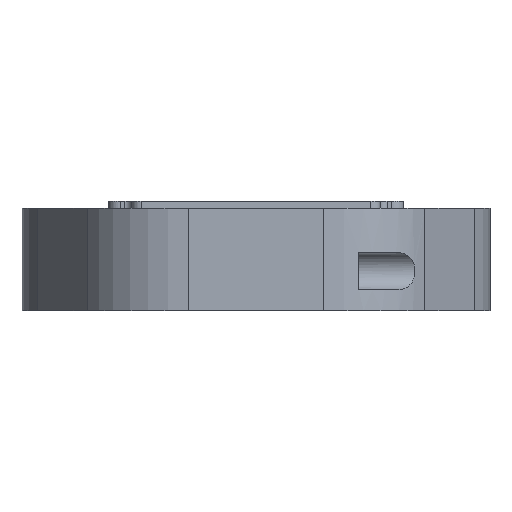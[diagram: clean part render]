
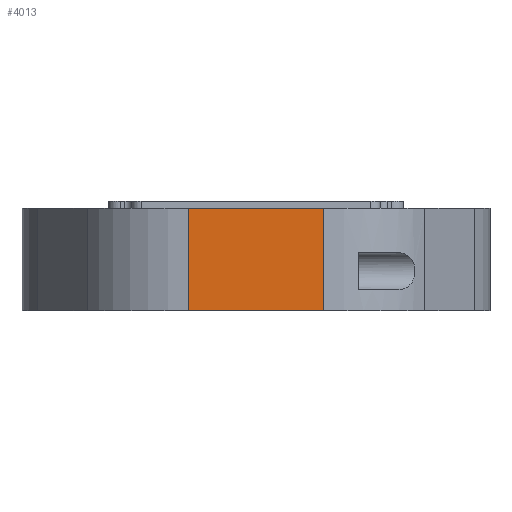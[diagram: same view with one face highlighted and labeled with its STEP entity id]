
A CAD part, front view. The second image highlights one B-rep face of the part: STEP entity #4013.
In plain terms, the highlighted planar face has unit normal (0, -1, 0).
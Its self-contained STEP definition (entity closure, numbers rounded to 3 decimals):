
#481=FACE_OUTER_BOUND('',#778,.T.);
#778=EDGE_LOOP('',(#3726,#3727,#3728,#3729));
#783=LINE('',#5734,#1105);
#966=LINE('',#6618,#1288);
#971=LINE('',#6629,#1293);
#1006=LINE('',#6744,#1328);
#1105=VECTOR('',#4504,10.);
#1288=VECTOR('',#5227,10.);
#1293=VECTOR('',#5238,10.);
#1328=VECTOR('',#5349,10.);
#1660=VERTEX_POINT('',#5731);
#1661=VERTEX_POINT('',#5733);
#1916=VERTEX_POINT('',#6615);
#1917=VERTEX_POINT('',#6617);
#2051=EDGE_CURVE('',#1660,#1661,#783,.T.);
#2395=EDGE_CURVE('',#1916,#1917,#966,.T.);
#2401=EDGE_CURVE('',#1917,#1660,#971,.T.);
#2463=EDGE_CURVE('',#1916,#1661,#1006,.T.);
#3726=ORIENTED_EDGE('',*,*,#2395,.F.);
#3727=ORIENTED_EDGE('',*,*,#2463,.T.);
#3728=ORIENTED_EDGE('',*,*,#2051,.F.);
#3729=ORIENTED_EDGE('',*,*,#2401,.F.);
#3791=PLANE('',#4485);
#4013=ADVANCED_FACE('',(#481),#3791,.T.);
#4485=AXIS2_PLACEMENT_3D('',#7054,#5712,#5713);
#4504=DIRECTION('',(0.,0.,-1.));
#5227=DIRECTION('',(0.,0.,1.));
#5238=DIRECTION('',(1.,0.,0.));
#5349=DIRECTION('',(1.,0.,0.));
#5712=DIRECTION('center_axis',(0.,-1.,0.));
#5713=DIRECTION('ref_axis',(1.,0.,0.));
#5731=CARTESIAN_POINT('',(28.868,-100.,44.));
#5733=CARTESIAN_POINT('',(28.868,-100.,0.));
#5734=CARTESIAN_POINT('',(28.868,-100.,0.));
#6615=CARTESIAN_POINT('',(-28.868,-100.,0.));
#6617=CARTESIAN_POINT('',(-28.868,-100.,44.));
#6618=CARTESIAN_POINT('',(-28.868,-100.,0.));
#6629=CARTESIAN_POINT('',(-100.,-100.,44.));
#6744=CARTESIAN_POINT('',(-100.,-100.,0.));
#7054=CARTESIAN_POINT('Origin',(-100.,-100.,0.));
